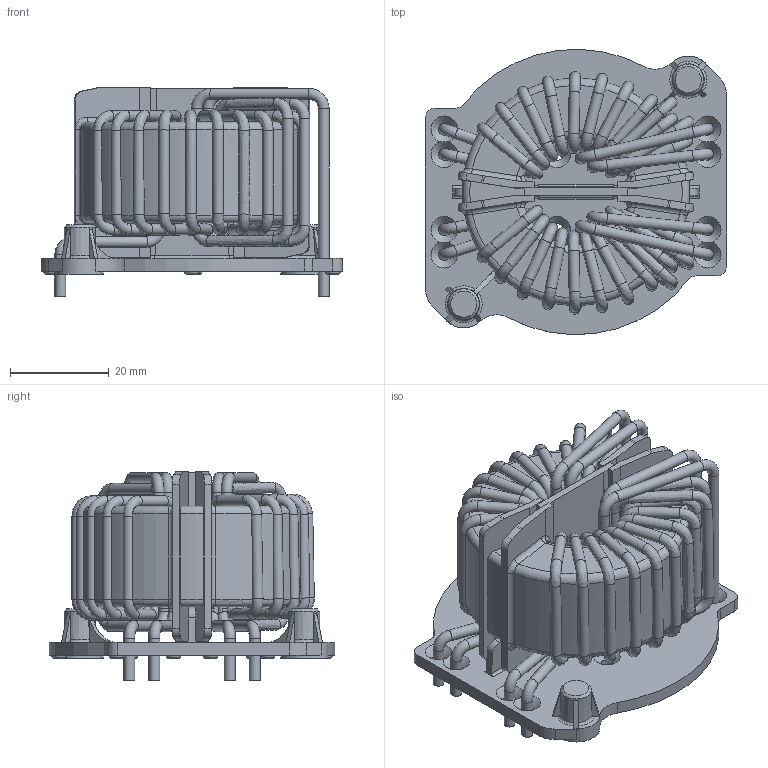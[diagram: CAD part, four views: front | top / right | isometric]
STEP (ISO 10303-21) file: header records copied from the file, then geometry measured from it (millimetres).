
FILE_DESCRIPTION((''),'2;1');
FILE_NAME('K:\Development\Projects\RB\Angel_standard choke series 2011\70_Realization_Revision\702_MechanicalDesign\Drawing for Harald\RB6122-36-0M5.stp','2012-10-23T10:30:54',('Fiona.chen'),(''),'Autodesk Inventor 2010','Autodesk Inventor 2010','');
FILE_SCHEMA(('AUTOMOTIVE_DESIGN { 1 0 10303 214 1 1 1 1 }'));
Length unit declared in the file: millimetre
Products named in the file (1): RB6122-36-0M5 for customer_包覆面提取_1
Bounding box: 61 x 57.78 x 42.3 mm (x, y, z)
Surface area: 32161.8 mm2 (no closed solid volume)
Topology: 0 solids, 1 shells, 918 faces, 2600 edges, 1668 vertices
Faces by surface type: plane 395, cylinder 224, bspline 140, torus 127, cone 32
Full cylindrical faces by diameter (mm): 2.2 x53, 2.4 x12, 3 x8, 9.6 x2
Entity records: 35244 total; most frequent: CARTESIAN_POINT 13503, ORIENTED_EDGE 4310, DIRECTION 3995, EDGE_CURVE 2155, AXIS2_PLACEMENT_3D 1512, VERTEX_POINT 1496, EDGE_LOOP 1249, VECTOR 971
